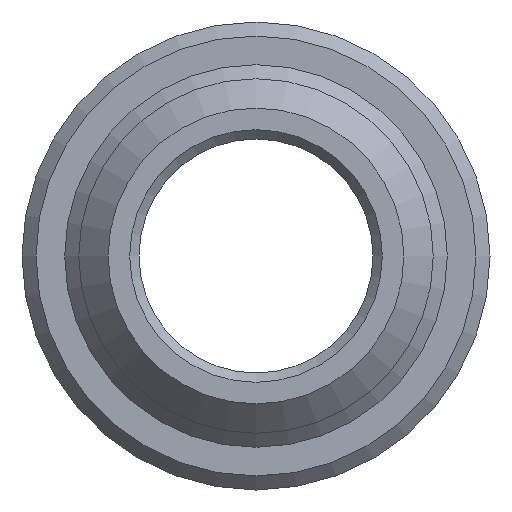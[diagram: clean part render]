
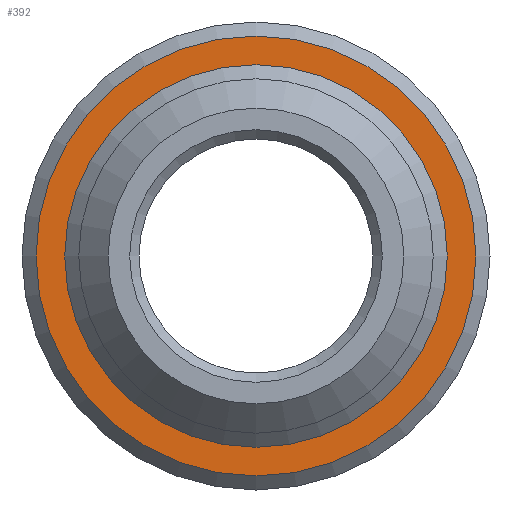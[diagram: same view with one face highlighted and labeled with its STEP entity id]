
A CAD part, front view. The second image highlights one B-rep face of the part: STEP entity #392.
In plain terms, the highlighted planar face has unit normal (0, -1, 0).
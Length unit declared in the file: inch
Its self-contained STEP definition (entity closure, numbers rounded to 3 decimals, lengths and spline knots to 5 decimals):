
#33=FACE_BOUND('',#86,.T.);
#44=PLANE('',#443);
#60=FACE_OUTER_BOUND('',#85,.T.);
#85=EDGE_LOOP('',(#316));
#86=EDGE_LOOP('',(#317));
#158=CIRCLE('',#442,0.20439);
#159=CIRCLE('',#444,0.235);
#195=VERTEX_POINT('',#678);
#196=VERTEX_POINT('',#682);
#243=EDGE_CURVE('',#195,#195,#158,.T.);
#244=EDGE_CURVE('',#196,#196,#159,.T.);
#316=ORIENTED_EDGE('',*,*,#244,.F.);
#317=ORIENTED_EDGE('',*,*,#243,.F.);
#392=ADVANCED_FACE('',(#60,#33),#44,.T.);
#442=AXIS2_PLACEMENT_3D('',#680,#536,#537);
#443=AXIS2_PLACEMENT_3D('',#681,#538,#539);
#444=AXIS2_PLACEMENT_3D('',#683,#540,#541);
#536=DIRECTION('center_axis',(0.,-1.,0.));
#537=DIRECTION('ref_axis',(0.,0.,-1.));
#538=DIRECTION('center_axis',(0.,-1.,0.));
#539=DIRECTION('ref_axis',(0.,0.,-1.));
#540=DIRECTION('center_axis',(0.,1.,0.));
#541=DIRECTION('ref_axis',(0.,0.,1.));
#678=CARTESIAN_POINT('',(0.,9.25,0.20439));
#680=CARTESIAN_POINT('Origin',(0.,9.25,0.));
#681=CARTESIAN_POINT('Origin',(0.,9.25,-0.203));
#682=CARTESIAN_POINT('',(0.,9.25,-0.235));
#683=CARTESIAN_POINT('Origin',(0.,9.25,0.));
